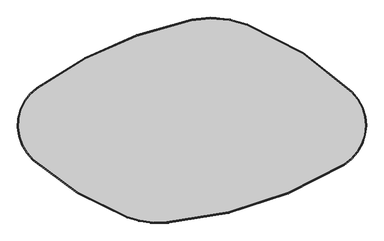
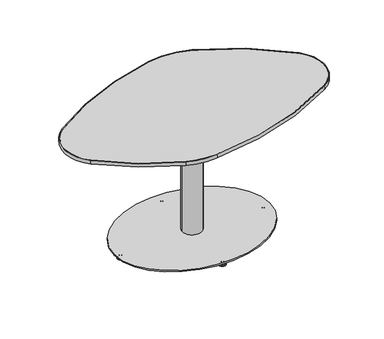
"""IFC4 building model written with IfcOpenShell, lengths in millimetres: furniture geometry, SmithSystem_AM_Table_Education_Flowform_LearnLounge_OffsetRectangle : NoPower."""

from ifc_helpers import new_model, si_unit, point, frame, frame_2d, origin, origin_2d, place, context, project, spatial, polyline, circle_curve, ellipse_curve, trimmed, segment, composite_curve, outline, extrude, faceted_brep, source, transform, mapped, element, save
from ifc_brep_helpers import plane_surface, cylinder_surface, revolved_surface, extruded_surface, advanced_brep


def furniture_9e63f0ef(model_context):
    return source(origin(), model_context, "Body", "SolidModel", [
        advanced_brep(
        [(-251.2749333, -377.9933385, 715.5915682), (-618.0474296, -153.7128124, 715.5915682), (-618.0474296, -153.7128124, 696.5415682), (-251.2749333, -377.9933385, 696.5415682), (-250.082583, -374.8479145, 696.5415682), (-615.7908773, -151.2181454, 696.5415682), (-615.7908773, -151.2181454, 715.5915682), (-250.082583, -374.8479145, 715.5915682), (-100.5668774, -399.344457, 715.5915682), (-100.5668774, -399.344457, 696.5415682), (-100.8386048, -395.991614, 696.5415682), (-100.8386048, -395.991614, 715.5915682), (591.5520529, -173.0158317, 715.5915682), (591.5520529, -173.0158317, 696.5415682), (589.7903005, -170.1502393, 696.5415682), (589.7903005, -170.1502393, 715.5915682), (623.1525274, 111.0165758, 715.5915682), (623.1525274, 111.0165758, 696.5415682), (620.8040198, 108.6082769, 696.5415682), (620.8040198, 108.6082769, 715.5915682), (215.0587168, 374.0069413, 715.5915682), (215.0587168, 374.0069413, 696.5415682), (213.8357856, 370.8732803, 696.5415682), (213.8357856, 370.8732803, 715.5915682), (-1.1588427, 392.3385395, 715.5915682), (-1.1588427, 392.3385395, 696.5415682), (-0.4809381, 389.0437197, 696.5415682), (-0.4809381, 389.0437197, 715.5915682), (-602.78312, 127.3650851, 715.5915682), (-602.78312, 127.3650851, 696.5415682), (-600.8099942, 124.6407198, 696.5415682), (-600.8099942, 124.6407198, 715.5915682)],
        [
            (0, 1, circle_curve(frame((159.6632656, 706.0630548, 715.5915682), z_axis=(0.0, 0.0, -1.0), x_axis=(-0.6708271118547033, -0.7416137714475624, 0.0)), 1159.3310429)),
            (1, 2, circle_curve(frame((-600.0913737, -133.8620071, 706.0665682), z_axis=(0.7416137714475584, -0.6708271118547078, 0.0), x_axis=(0.6708271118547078, 0.7416137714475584, 0.0)), 28.4112661)),
            (2, 3, circle_curve(frame((159.6632656, 706.0630548, 696.5415682), z_axis=(0.0, 0.0, 1.0), x_axis=(-0.6708271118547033, -0.7416137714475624, 0.0)), 1159.3310429)),
            (3, 0, circle_curve(frame((-241.7870487, -352.9642662, 706.0665682), z_axis=(-0.9350706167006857, 0.3544614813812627, 0.0), x_axis=(0.3544614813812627, 0.9350706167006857, 0.0)), 28.4112661)),
            (4, 5, circle_curve(frame((159.6632656, 706.0630548, 696.5415682), z_axis=(0.0, 0.0, -1.0), x_axis=(-0.6708271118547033, -0.7416137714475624, 0.0)), 1155.9672071)),
            (5, 6),
            (6, 7, circle_curve(frame((159.6632656, 706.0630548, 715.5915682), z_axis=(0.0, 0.0, 1.0), x_axis=(-0.6708271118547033, -0.7416137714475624, 0.0)), 1155.9672071)),
            (7, 4),
            (8, 0, circle_curve(frame((-128.5377411, -54.2122, 715.5915682), z_axis=(0.0, 0.0, -1.0), x_axis=(-0.354461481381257, -0.9350706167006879, 0.0)), 346.2638358)),
            (3, 9, circle_curve(frame((-128.5377411, -54.2122, 696.5415682), z_axis=(0.0, 0.0, 1.0), x_axis=(-0.354461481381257, -0.9350706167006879, 0.0)), 346.2638358)),
            (9, 8, circle_curve(frame((-102.7290934, -372.6648911, 706.0665682), z_axis=(-0.9967320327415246, -0.08077904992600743, 0.0), x_axis=(-0.08077904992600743, 0.9967320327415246, 0.0)), 28.4112661)),
            (10, 4, circle_curve(frame((-128.5377411, -54.2122, 696.5415682), z_axis=(0.0, 0.0, -1.0), x_axis=(-0.354461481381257, -0.9350706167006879, 0.0)), 342.9)),
            (7, 11, circle_curve(frame((-128.5377411, -54.2122, 715.5915682), z_axis=(0.0, 0.0, 1.0), x_axis=(-0.354461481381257, -0.9350706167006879, 0.0)), 342.9)),
            (11, 10),
            (12, 8, circle_curve(frame((-226.7847098, 1158.0563398, 715.5915682), z_axis=(0.0, 0.0, -1.0), x_axis=(0.08077904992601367, -0.9967320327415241, 0.0)), 1562.5070186)),
            (9, 13, circle_curve(frame((-226.7847098, 1158.0563398, 696.5415682), z_axis=(0.0, 0.0, 1.0), x_axis=(0.08077904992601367, -0.9967320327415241, 0.0)), 1562.5070186)),
            (13, 12, circle_curve(frame((577.5332662, -150.2134627, 706.0665682), z_axis=(-0.8518823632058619, -0.5237331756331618, 0.0), x_axis=(-0.5237331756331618, 0.8518823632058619, 0.0)), 28.4112661)),
            (14, 10, circle_curve(frame((-226.7847098, 1158.0563398, 696.5415682), z_axis=(0.0, 0.0, -1.0), x_axis=(0.08077904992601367, -0.9967320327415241, 0.0)), 1559.1431827)),
            (11, 15, circle_curve(frame((-226.7847098, 1158.0563398, 715.5915682), z_axis=(0.0, 0.0, 1.0), x_axis=(0.08077904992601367, -0.9967320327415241, 0.0)), 1559.1431827)),
            (15, 14),
            (16, 12, circle_curve(frame((496.6705419, -18.6855551, 715.5915682), z_axis=(0.0, 0.0, -1.0), x_axis=(0.5237331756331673, -0.8518823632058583, 0.0)), 181.1638358)),
            (13, 17, circle_curve(frame((496.6705419, -18.6855551, 696.5415682), z_axis=(0.0, 0.0, 1.0), x_axis=(0.5237331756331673, -0.8518823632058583, 0.0)), 181.1638358)),
            (17, 16, circle_curve(frame((604.4647561, 91.8530266, 706.0665682), z_axis=(0.7159383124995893, -0.6981635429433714, 0.0), x_axis=(-0.6981635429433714, -0.7159383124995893, 0.0)), 28.4112661)),
            (18, 14, circle_curve(frame((496.6705419, -18.6855551, 696.5415682), z_axis=(0.0, 0.0, -1.0), x_axis=(0.5237331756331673, -0.8518823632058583, 0.0)), 177.8)),
            (15, 19, circle_curve(frame((496.6705419, -18.6855551, 715.5915682), z_axis=(0.0, 0.0, 1.0), x_axis=(0.5237331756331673, -0.8518823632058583, 0.0)), 177.8)),
            (19, 18),
            (20, 16, circle_curve(frame((-228.3325005, -762.1466824, 715.5915682), z_axis=(0.0, 0.0, -1.0), x_axis=(0.698163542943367, 0.7159383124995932, 0.0)), 1219.6068335)),
            (17, 21, circle_curve(frame((-228.3325005, -762.1466824, 696.5415682), z_axis=(0.0, 0.0, 1.0), x_axis=(0.698163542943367, 0.7159383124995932, 0.0)), 1219.6068335)),
            (21, 20, circle_curve(frame((205.3274903, 349.0714717, 706.0665682), z_axis=(0.9315736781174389, -0.36355258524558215, 0.0), x_axis=(-0.36355258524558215, -0.9315736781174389, 0.0)), 28.4112661)),
            (22, 18, circle_curve(frame((-228.3325005, -762.1466824, 696.5415682), z_axis=(0.0, 0.0, -1.0), x_axis=(0.698163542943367, 0.7159383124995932, 0.0)), 1216.2429976)),
            (19, 23, circle_curve(frame((-228.3325005, -762.1466824, 715.5915682), z_axis=(0.0, 0.0, 1.0), x_axis=(0.698163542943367, 0.7159383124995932, 0.0)), 1216.2429976)),
            (23, 22),
            (24, 20, circle_curve(frame((75.9519091, 17.5571571, 715.5915682), z_axis=(0.0, 0.0, -1.0), x_axis=(0.3635525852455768, 0.9315736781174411, 0.0)), 382.6318761)),
            (21, 25, circle_curve(frame((75.9519091, 17.5571571, 696.5415682), z_axis=(0.0, 0.0, 1.0), x_axis=(0.3635525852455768, 0.9315736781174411, 0.0)), 382.6318761)),
            (25, 24, circle_curve(frame((4.2354453, 366.1206816, 706.0665682), z_axis=(0.9794829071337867, 0.20152725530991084, 0.0), x_axis=(0.20152725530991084, -0.9794829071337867, 0.0)), 28.4112661)),
            (26, 22, circle_curve(frame((75.9519091, 17.5571571, 696.5415682), z_axis=(0.0, 0.0, -1.0), x_axis=(0.3635525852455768, 0.9315736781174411, 0.0)), 379.2680402)),
            (23, 27, circle_curve(frame((75.9519091, 17.5571571, 715.5915682), z_axis=(0.0, 0.0, 1.0), x_axis=(0.3635525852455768, 0.9315736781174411, 0.0)), 379.2680402)),
            (27, 26),
            (28, 24, circle_curve(frame((313.7247266, -1138.0900539, 715.5915682), z_axis=(0.0, 0.0, -1.0), x_axis=(-0.2015272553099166, 0.9794829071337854, 0.0)), 1562.4862692)),
            (25, 29, circle_curve(frame((313.7247266, -1138.0900539, 696.5415682), z_axis=(0.0, 0.0, 1.0), x_axis=(-0.2015272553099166, 0.9794829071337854, 0.0)), 1562.4862692)),
            (29, 28, circle_curve(frame((-587.0823728, 105.6865023, 706.0665682), z_axis=(0.8098984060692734, 0.5865701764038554, 0.0), x_axis=(0.5865701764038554, -0.8098984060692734, 0.0)), 28.4112661)),
            (30, 26, circle_curve(frame((313.7247266, -1138.0900539, 696.5415682), z_axis=(0.0, 0.0, -1.0), x_axis=(-0.2015272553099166, 0.9794829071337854, 0.0)), 1559.1224334)),
            (27, 31, circle_curve(frame((313.7247266, -1138.0900539, 715.5915682), z_axis=(0.0, 0.0, 1.0), x_axis=(-0.2015272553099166, 0.9794829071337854, 0.0)), 1559.1224334)),
            (31, 30),
            (2, 29, circle_curve(frame((-496.5178168, -19.3592168, 696.5415682), z_axis=(0.0, 0.0, -1.0), x_axis=(-0.5865701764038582, 0.8098984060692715, 0.0)), 181.1638358)),
            (30, 5, circle_curve(frame((-496.5178168, -19.3592168, 696.5415682), z_axis=(0.0, 0.0, 1.0), x_axis=(-0.5865701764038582, 0.8098984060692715, 0.0)), 177.8)),
            (1, 28, circle_curve(frame((-496.5178168, -19.3592168, 715.5915682), z_axis=(0.0, 0.0, -1.0), x_axis=(-0.5865701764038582, 0.8098984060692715, 0.0)), 181.1638358)),
            (6, 31, circle_curve(frame((-496.5178168, -19.3592168, 715.5915682), z_axis=(0.0, 0.0, -1.0), x_axis=(-0.5865701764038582, 0.8098984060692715, 0.0)), 177.8)),
        ],
        [
            revolved_surface(trimmed(ellipse_curve(frame((-600.0913737, -133.8620071, 706.0665682), z_axis=(-0.7416137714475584, 0.6708271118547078, 0.0), x_axis=(0.6708271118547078, 0.7416137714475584, 0.0)), 28.4112661, 28.4112661), [point((-618.0474296, -153.7128124, 696.5415682))], [point((-618.0474296, -153.7128124, 715.5915682))], True, "CARTESIAN"), (159.6632656, 706.0630548, 0.0), (0.0, 0.0, 1.0)),
            revolved_surface(polyline([(-615.7908773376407, -151.2181453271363, 715.5915682), (-615.7908773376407, -151.2181453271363, 696.5415682)]), (159.6632656, 706.0630548, 0.0), (0.0, 0.0, 1.0)),
            revolved_surface(trimmed(ellipse_curve(frame((-241.7870487, -352.9642662, 706.0665682), z_axis=(-0.9350706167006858, 0.35446148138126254, 0.0), x_axis=(0.35446148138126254, 0.9350706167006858, 0.0)), 28.4112661, 28.4112661), [point((-251.2749333, -377.9933385, 696.5415682))], [point((-251.2749333, -377.9933385, 715.5915682))], True, "CARTESIAN"), (-128.5377411, -54.2122, 0.0), (0.0, 0.0, 1.0)),
            revolved_surface(polyline([(-250.082583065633, -374.8479144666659, 715.5915682), (-250.082583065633, -374.8479144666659, 696.5415682)]), (-128.5377411, -54.2122, 0.0), (0.0, 0.0, 1.0)),
            revolved_surface(trimmed(ellipse_curve(frame((-102.7290934, -372.6648911, 706.0665682), z_axis=(-0.9967320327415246, -0.08077904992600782, 0.0), x_axis=(-0.08077904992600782, 0.9967320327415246, 0.0)), 28.4112661, 28.4112661), [point((-100.5668774, -399.344457, 696.5415682))], [point((-100.5668774, -399.344457, 715.5915682))], True, "CARTESIAN"), (-226.7847098, 1158.0563398, 0.0), (0.0, 0.0, 1.0)),
            revolved_surface(polyline([(-100.83860480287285, -395.9916140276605, 715.5915682), (-100.83860480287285, -395.9916140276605, 696.5415682)]), (-226.7847098, 1158.0563398, 0.0), (0.0, 0.0, 1.0)),
            revolved_surface(trimmed(ellipse_curve(frame((577.5332662, -150.2134627, 706.0665682), z_axis=(-0.8518823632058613, -0.5237331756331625, 0.0), x_axis=(-0.5237331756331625, 0.8518823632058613, 0.0)), 28.4112661, 28.4112661), [point((591.5520529, -173.0158317, 696.5415682))], [point((591.5520529, -173.0158317, 715.5915682))], True, "CARTESIAN"), (496.6705419, -18.6855551, 0.0), (0.0, 0.0, 1.0)),
            revolved_surface(polyline([(589.7903005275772, -170.1502392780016, 715.5915682), (589.7903005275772, -170.1502392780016, 696.5415682)]), (496.6705419, -18.6855551, 0.0), (0.0, 0.0, 1.0)),
            revolved_surface(trimmed(ellipse_curve(frame((604.4647561, 91.8530266, 706.0665682), z_axis=(0.7159383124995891, -0.6981635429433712, 0.0), x_axis=(-0.6981635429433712, -0.7159383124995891, 0.0)), 28.4112661, 28.4112661), [point((623.1525274, 111.0165758, 696.5415682))], [point((623.1525274, 111.0165758, 715.5915682))], True, "CARTESIAN"), (-228.3325005, -762.1466824, 0.0), (0.0, 0.0, 1.0)),
            revolved_surface(polyline([(620.8040197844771, 108.60827689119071, 715.5915682), (620.8040197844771, 108.60827689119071, 696.5415682)]), (-228.3325005, -762.1466824, 0.0), (0.0, 0.0, 1.0)),
            revolved_surface(trimmed(ellipse_curve(frame((205.3274903, 349.0714717, 706.0665682), z_axis=(0.931573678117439, -0.3635525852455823, 0.0), x_axis=(-0.3635525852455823, -0.931573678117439, 0.0)), 28.4112661, 28.4112661), [point((215.0587168, 374.0069413, 696.5415682))], [point((215.0587168, 374.0069413, 715.5915682))], True, "CARTESIAN"), (75.9519091, 17.5571571, 0.0), (0.0, 0.0, 1.0)),
            revolved_surface(polyline([(213.83578561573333, 370.87328030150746, 715.5915682), (213.83578561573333, 370.87328030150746, 696.5415682)]), (75.9519091, 17.5571571, 0.0), (0.0, 0.0, 1.0)),
            revolved_surface(trimmed(ellipse_curve(frame((4.2354453, 366.1206816, 706.0665682), z_axis=(0.9794829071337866, 0.2015272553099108, 0.0), x_axis=(0.2015272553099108, -0.9794829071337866, 0.0)), 28.4112661, 28.4112661), [point((-1.1588427, 392.3385395, 696.5415682))], [point((-1.1588427, 392.3385395, 715.5915682))], True, "CARTESIAN"), (313.7247266, -1138.0900539, 0.0), (0.0, 0.0, 1.0)),
            revolved_surface(polyline([(-0.4809380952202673, 389.0437197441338, 715.5915682), (-0.4809380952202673, 389.0437197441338, 696.5415682)]), (313.7247266, -1138.0900539, 0.0), (0.0, 0.0, 1.0)),
            plane_surface(frame((-496.5178168, -19.3592168, 696.5415682), z_axis=(0.0, 0.0, -1.0), x_axis=(-0.5865701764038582, 0.8098984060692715, 0.0))),
            revolved_surface(trimmed(ellipse_curve(frame((-587.0823728, 105.6865023, 706.0665682), z_axis=(0.809898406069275, 0.5865701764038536, 0.0), x_axis=(0.5865701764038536, -0.809898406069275, 0.0)), 28.4112661, 28.4112661), [point((-602.78312, 127.3650851, 696.5415682))], [point((-602.78312, 127.3650851, 715.5915682))], True, "CARTESIAN"), (-496.5178168, -19.3592168, 0.0), (0.0, 0.0, 1.0)),
            plane_surface(frame((-496.5178168, -19.3592168, 715.5915682), z_axis=(0.0, 0.0, 1.0), x_axis=(-0.5865701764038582, 0.8098984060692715, 0.0))),
            revolved_surface(polyline([(-600.809994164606, 124.6407197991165, 715.5915682), (-600.809994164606, 124.6407197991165, 696.5415682)]), (-496.5178168, -19.3592168, 0.0), (0.0, 0.0, 1.0)),
        ],
        [
            (0, [[1, 2, 3, 4]]),
            (1, [[5, 6, 7, 8]]),
            (2, [[9, -4, 10, 11]]),
            (3, [[12, -8, 13, 14]]),
            (4, [[15, -11, 16, 17]]),
            (5, [[18, -14, 19, 20]]),
            (6, [[21, -17, 22, 23]]),
            (7, [[24, -20, 25, 26]]),
            (8, [[27, -23, 28, 29]]),
            (9, [[30, -26, 31, 32]]),
            (10, [[33, -29, 34, 35]]),
            (11, [[36, -32, 37, 38]]),
            (12, [[39, -35, 40, 41]]),
            (13, [[42, -38, 43, 44]]),
            (14, [[45, -40, -34, -28, -22, -16, -10, -3], [-36, -42, 46, -5, -12, -18, -24, -30]]),
            (15, [[47, -41, -45, -2]]),
            (16, [[-33, -39, -47, -1, -9, -15, -21, -27], [48, -43, -37, -31, -25, -19, -13, -7]]),
            (17, [[-46, -44, -48, -6]]),
        ],
    ),
        extrude(outline(composite_curve([segment(trimmed(circle_curve(frame_2d((75.9519091, 17.5571571)), 379.2680402), [point((-0.4809381, 389.0437197))], [point((213.8357856, 370.8732803))], False, "CARTESIAN"), True, "CONTINUOUS"), segment(trimmed(circle_curve(frame_2d((-228.3325005, -762.1466824)), 1216.2429976), [point((213.8357856, 370.8732803))], [point((620.8040198, 108.6082769))], False, "CARTESIAN"), True, "CONTINUOUS"), segment(trimmed(circle_curve(frame_2d((496.6705419, -18.6855551)), 177.8), [point((620.8040198, 108.6082769))], [point((589.7903005, -170.1502393))], False, "CARTESIAN"), True, "CONTINUOUS"), segment(trimmed(circle_curve(frame_2d((-226.7847098, 1158.0563398)), 1559.1431827), [point((589.7903005, -170.1502393))], [point((-100.8386048, -395.991614))], False, "CARTESIAN"), True, "CONTINUOUS"), segment(trimmed(circle_curve(frame_2d((-128.5377411, -54.2122)), 342.9), [point((-100.8386048, -395.991614))], [point((-250.082583, -374.8479145))], False, "CARTESIAN"), True, "CONTINUOUS"), segment(trimmed(circle_curve(frame_2d((159.6632656, 706.0630548)), 1155.9672071), [point((-250.082583, -374.8479145))], [point((-615.7908773, -151.2181454))], False, "CARTESIAN"), True, "CONTINUOUS"), segment(trimmed(circle_curve(frame_2d((-496.5178168, -19.3592168)), 177.8), [point((-615.7908773, -151.2181454))], [point((-600.8099942, 124.6407198))], False, "CARTESIAN"), True, "CONTINUOUS"), segment(trimmed(circle_curve(frame_2d((313.7247266, -1138.0900539)), 1559.1224334), [point((-600.8099942, 124.6407198))], [point((-0.4809381, 389.0437197))], False, "CARTESIAN"), True, "CONTINUOUS")], self_intersect=False)), frame((0.0, 0.0, 696.5415682), z_axis=(0.0, 0.0, 1.0), x_axis=(1.0, 0.0, 0.0)), (0.0, 0.0, 1.0), 19.05),
        faceted_brep([(84.6581956, 84.4295951, 688.0173792), (-84.198458, 84.4295951, 688.0173792), (-84.198458, -84.427063, 688.0173792), (84.6581956, -84.427063, 688.0173792), (66.4864882, 66.33972, 665.6324083), (66.4864882, -66.3371788, 665.6324083), (-66.1085784, -66.3371788, 665.6324083), (-66.1085784, 66.33972, 665.6324083)], [[[0, 1, 2, 3]], [[4, 5, 6, 7]], [[4, 7, 1, 0]], [[7, 6, 2, 1]], [[6, 5, 3, 2]], [[5, 4, 0, 3]]]),
        extrude(outline(polyline([(117.706142, 117.4775461), (117.706142, -117.4750004), (-117.243861, -117.4750004), (-117.243861, 117.4775461), (117.706142, 117.4775461)])), frame((0.0, 0.0, 688.0173792), z_axis=(0.0, 0.0, 1.0), x_axis=(1.0, 0.0, 0.0)), (0.0, 0.0, 1.0), 3.0226353),
        extrude(outline(composite_curve([segment(trimmed(circle_curve(origin_2d(), 51.0307352), [point((-51.0307352, 0.0))], [point((51.0307352, 0.0))], False, "CARTESIAN"), True, "CONTINUOUS"), segment(trimmed(circle_curve(origin_2d(), 51.0307352), [point((51.0307352, 0.0))], [point((-51.0307352, 0.0))], False, "CARTESIAN"), True, "CONTINUOUS")], self_intersect=False), holes=[composite_curve([segment(trimmed(circle_curve(origin_2d(), 49.8623383), [point((-49.8623383, 0.0))], [point((49.8623383, 0.0))], True, "CARTESIAN"), True, "CONTINUOUS"), segment(trimmed(circle_curve(origin_2d(), 49.8623383), [point((49.8623383, 0.0))], [point((-49.8623383, 0.0))], True, "CARTESIAN"), True, "CONTINUOUS")], self_intersect=False)]), frame((0.0, 0.0, 30.4800005), z_axis=(0.0, 0.0, 1.0), x_axis=(1.0, 0.0, 0.0)), (0.0, 0.0, 1.0), 635.1524079),
        extrude(outline(composite_curve([segment(trimmed(circle_curve(frame_2d((381.2286319, 49.6219644)), 25.4), [point((390.780639, 73.1574517))], [point((406.6286319, 49.6219644))], False, "CARTESIAN"), True, "CONTINUOUS"), segment(polyline([(406.6286319, 49.6219644), (406.6286319, -49.6194278)]), True, "CONTINUOUS"), segment(trimmed(circle_curve(frame_2d((381.2286319, -49.6194278)), 25.4), [point((406.6286319, -49.6194278))], [point((390.7806401, -73.1549146))], False, "CARTESIAN"), True, "CONTINUOUS"), segment(trimmed(circle_curve(frame_2d((0.2298915, 889.135086)), 1038.52392), [point((390.7806401, -73.1549146))], [point((-393.4994358, -71.8587481))], False, "CARTESIAN"), True, "CONTINUOUS"), segment(trimmed(circle_curve(frame_2d((-381.2286319, -49.6194278)), 25.4), [point((-393.4994358, -71.8587481))], [point((-406.6286319, -49.6194278))], False, "CARTESIAN"), True, "CONTINUOUS"), segment(polyline([(-406.6286319, -49.6194278), (-406.6286319, 49.6219644)]), True, "CONTINUOUS"), segment(trimmed(circle_curve(frame_2d((-381.2286319, 49.6219644)), 25.4), [point((-406.6286319, 49.6219644))], [point((-387.948128, 74.1170327))], False, "CARTESIAN"), True, "CONTINUOUS"), segment(trimmed(circle_curve(frame_2d((0.2298915, -889.1326731)), 1038.5240346), [point((-387.948128, 74.1170327))], [point((390.780639, 73.1574517))], False, "CARTESIAN"), True, "CONTINUOUS")], self_intersect=False), holes=[composite_curve([segment(trimmed(circle_curve(frame_2d((-386.0367929, 53.1685479)), 6.1861697), [point((-392.2229625, 53.1685479))], [point((-379.8506232, 53.1685479))], True, "CARTESIAN"), True, "CONTINUOUS"), segment(trimmed(circle_curve(frame_2d((-386.0367929, 53.1685479)), 6.1861697), [point((-379.8506232, 53.1685479))], [point((-392.2229625, 53.1685479))], True, "CARTESIAN"), True, "CONTINUOUS")], self_intersect=False), composite_curve([segment(trimmed(circle_curve(frame_2d((-292.9890022, 87.2680426)), 6.1861697), [point((-299.1751719, 87.2680426))], [point((-286.8028325, 87.2680426))], True, "CARTESIAN"), True, "CONTINUOUS"), segment(trimmed(circle_curve(frame_2d((-292.9890022, 87.2680426)), 6.1861697), [point((-286.8028325, 87.2680426))], [point((-299.1751719, 87.2680426))], True, "CARTESIAN"), True, "CONTINUOUS")], self_intersect=False), composite_curve([segment(trimmed(circle_curve(frame_2d((-196.8017411, 111.1262702)), 6.1861697), [point((-202.9879108, 111.1262702))], [point((-190.6155714, 111.1262702))], True, "CARTESIAN"), True, "CONTINUOUS"), segment(trimmed(circle_curve(frame_2d((-196.8017411, 111.1262702)), 6.1861697), [point((-190.6155714, 111.1262702))], [point((-202.9879108, 111.1262702))], True, "CARTESIAN"), True, "CONTINUOUS")], self_intersect=False), composite_curve([segment(trimmed(circle_curve(frame_2d((-98.7526568, 125.5331488)), 6.1861697), [point((-104.9388265, 125.5331488))], [point((-92.5664872, 125.5331488))], True, "CARTESIAN"), True, "CONTINUOUS"), segment(trimmed(circle_curve(frame_2d((-98.7526568, 125.5331488)), 6.1861697), [point((-92.5664872, 125.5331488))], [point((-104.9388265, 125.5331488))], True, "CARTESIAN"), True, "CONTINUOUS")], self_intersect=False), composite_curve([segment(trimmed(circle_curve(frame_2d((0.0, 130.2772487)), 6.1861697), [point((-6.1861697, 130.2772487))], [point((6.1861697, 130.2772487))], True, "CARTESIAN"), True, "CONTINUOUS"), segment(trimmed(circle_curve(frame_2d((0.0, 130.2772487)), 6.1861697), [point((6.1861697, 130.2772487))], [point((-6.1861697, 130.2772487))], True, "CARTESIAN"), True, "CONTINUOUS")], self_intersect=False), composite_curve([segment(trimmed(circle_curve(frame_2d((386.0367929, 53.1685479)), 6.1861697), [point((379.8506232, 53.1685479))], [point((392.2229625, 53.1685479))], True, "CARTESIAN"), True, "CONTINUOUS"), segment(trimmed(circle_curve(frame_2d((386.0367929, 53.1685479)), 6.1861697), [point((392.2229625, 53.1685479))], [point((379.8506232, 53.1685479))], True, "CARTESIAN"), True, "CONTINUOUS")], self_intersect=False), composite_curve([segment(trimmed(circle_curve(frame_2d((292.9890022, 87.2680426)), 6.1861697), [point((286.8028325, 87.2680426))], [point((299.1751719, 87.2680426))], True, "CARTESIAN"), True, "CONTINUOUS"), segment(trimmed(circle_curve(frame_2d((292.9890022, 87.2680426)), 6.1861697), [point((299.1751719, 87.2680426))], [point((286.8028325, 87.2680426))], True, "CARTESIAN"), True, "CONTINUOUS")], self_intersect=False), composite_curve([segment(trimmed(circle_curve(frame_2d((196.8017411, 111.1262702)), 6.1861697), [point((190.6155714, 111.1262702))], [point((202.9879108, 111.1262702))], True, "CARTESIAN"), True, "CONTINUOUS"), segment(trimmed(circle_curve(frame_2d((196.8017411, 111.1262702)), 6.1861697), [point((202.9879108, 111.1262702))], [point((190.6155714, 111.1262702))], True, "CARTESIAN"), True, "CONTINUOUS")], self_intersect=False), composite_curve([segment(trimmed(circle_curve(frame_2d((98.7526568, 125.5331488)), 6.1861697), [point((92.5664872, 125.5331488))], [point((104.9388265, 125.5331488))], True, "CARTESIAN"), True, "CONTINUOUS"), segment(trimmed(circle_curve(frame_2d((98.7526568, 125.5331488)), 6.1861697), [point((104.9388265, 125.5331488))], [point((92.5664872, 125.5331488))], True, "CARTESIAN"), True, "CONTINUOUS")], self_intersect=False), composite_curve([segment(trimmed(circle_curve(frame_2d((-386.0367929, -53.1685479)), 6.1861697), [point((-392.2229625, -53.1685479))], [point((-379.8506232, -53.1685479))], True, "CARTESIAN"), True, "CONTINUOUS"), segment(trimmed(circle_curve(frame_2d((-386.0367929, -53.1685479)), 6.1861697), [point((-379.8506232, -53.1685479))], [point((-392.2229625, -53.1685479))], True, "CARTESIAN"), True, "CONTINUOUS")], self_intersect=False), composite_curve([segment(trimmed(circle_curve(frame_2d((-292.9890022, -87.2680426)), 6.1861697), [point((-299.1751719, -87.2680426))], [point((-286.8028325, -87.2680426))], True, "CARTESIAN"), True, "CONTINUOUS"), segment(trimmed(circle_curve(frame_2d((-292.9890022, -87.2680426)), 6.1861697), [point((-286.8028325, -87.2680426))], [point((-299.1751719, -87.2680426))], True, "CARTESIAN"), True, "CONTINUOUS")], self_intersect=False), composite_curve([segment(trimmed(circle_curve(frame_2d((-196.8017411, -111.1262702)), 6.1861697), [point((-202.9879108, -111.1262702))], [point((-190.6155714, -111.1262702))], True, "CARTESIAN"), True, "CONTINUOUS"), segment(trimmed(circle_curve(frame_2d((-196.8017411, -111.1262702)), 6.1861697), [point((-190.6155714, -111.1262702))], [point((-202.9879108, -111.1262702))], True, "CARTESIAN"), True, "CONTINUOUS")], self_intersect=False), composite_curve([segment(trimmed(circle_curve(frame_2d((-98.7526568, -125.5331488)), 6.1861697), [point((-104.9388265, -125.5331488))], [point((-92.5664872, -125.5331488))], True, "CARTESIAN"), True, "CONTINUOUS"), segment(trimmed(circle_curve(frame_2d((-98.7526568, -125.5331488)), 6.1861697), [point((-92.5664872, -125.5331488))], [point((-104.9388265, -125.5331488))], True, "CARTESIAN"), True, "CONTINUOUS")], self_intersect=False), composite_curve([segment(trimmed(circle_curve(frame_2d((0.0, -130.2772487)), 6.1861697), [point((-6.1861697, -130.2772487))], [point((6.1861697, -130.2772487))], True, "CARTESIAN"), True, "CONTINUOUS"), segment(trimmed(circle_curve(frame_2d((0.0, -130.2772487)), 6.1861697), [point((6.1861697, -130.2772487))], [point((-6.1861697, -130.2772487))], True, "CARTESIAN"), True, "CONTINUOUS")], self_intersect=False), composite_curve([segment(trimmed(circle_curve(frame_2d((386.0367929, -53.1685479)), 6.1861697), [point((379.8506232, -53.1685479))], [point((392.2229625, -53.1685479))], True, "CARTESIAN"), True, "CONTINUOUS"), segment(trimmed(circle_curve(frame_2d((386.0367929, -53.1685479)), 6.1861697), [point((392.2229625, -53.1685479))], [point((379.8506232, -53.1685479))], True, "CARTESIAN"), True, "CONTINUOUS")], self_intersect=False), composite_curve([segment(trimmed(circle_curve(frame_2d((292.9890022, -87.2680426)), 6.1861697), [point((286.8028325, -87.2680426))], [point((299.1751719, -87.2680426))], True, "CARTESIAN"), True, "CONTINUOUS"), segment(trimmed(circle_curve(frame_2d((292.9890022, -87.2680426)), 6.1861697), [point((299.1751719, -87.2680426))], [point((286.8028325, -87.2680426))], True, "CARTESIAN"), True, "CONTINUOUS")], self_intersect=False), composite_curve([segment(trimmed(circle_curve(frame_2d((196.8017411, -111.1262702)), 6.1861697), [point((190.6155714, -111.1262702))], [point((202.9879108, -111.1262702))], True, "CARTESIAN"), True, "CONTINUOUS"), segment(trimmed(circle_curve(frame_2d((196.8017411, -111.1262702)), 6.1861697), [point((202.9879108, -111.1262702))], [point((190.6155714, -111.1262702))], True, "CARTESIAN"), True, "CONTINUOUS")], self_intersect=False), composite_curve([segment(trimmed(circle_curve(frame_2d((98.7526568, -125.5331488)), 6.1861697), [point((92.5664872, -125.5331488))], [point((104.9388265, -125.5331488))], True, "CARTESIAN"), True, "CONTINUOUS"), segment(trimmed(circle_curve(frame_2d((98.7526568, -125.5331488)), 6.1861697), [point((104.9388265, -125.5331488))], [point((92.5664872, -125.5331488))], True, "CARTESIAN"), True, "CONTINUOUS")], self_intersect=False)]), frame((0.0, 0.0, 691.0400145), z_axis=(0.0, 0.0, 1.0), x_axis=(1.0, 0.0, 0.0)), (0.0, 0.0, 1.0), 5.5015537),
        advanced_brep(
        [(0.0, 274.7331576, 0.0), (17.7495343, 274.7331576, 0.0), (-17.7495343, 274.7331576, 0.0), (17.7495343, 274.7331576, 3.570799), (-17.7495343, 274.7331576, 3.570799), (16.567463, 274.7331576, 5.0466319), (-16.567463, 274.7331576, 5.0466319), (7.9298575, 274.7331576, 10.1285507), (-7.9298575, 274.7331576, 10.1285507), (7.9298575, 274.7331576, 12.7000004), (-7.9298575, 274.7331576, 12.7000004), (5.3644618, 274.7331576, 12.7000004), (-5.3644618, 274.7331576, 12.7000004), (5.3644618, 274.7331576, 17.8079394), (-5.3644618, 274.7331576, 17.8079394), (0.0, 274.7331576, 17.8079394)],
        [
            (0, 1),
            (1, 2, circle_curve(frame((0.0, 274.7331576, 0.0), z_axis=(0.0, 0.0, -1.0), x_axis=(1.0, 0.0, 0.0)), 17.7495343)),
            (2, 0),
            (2, 1, circle_curve(frame((0.0, 274.7331576, 0.0), z_axis=(0.0, 0.0, -1.0), x_axis=(1.0, 0.0, 0.0)), 17.7495343)),
            (1, 3),
            (3, 4, circle_curve(frame((0.0, 274.7331576, 3.570799), z_axis=(0.0, 0.0, -1.0), x_axis=(1.0, 0.0, 0.0)), 17.7495343)),
            (4, 2),
            (4, 3, circle_curve(frame((0.0, 274.7331576, 3.570799), z_axis=(0.0, 0.0, -1.0), x_axis=(1.0, 0.0, 0.0)), 17.7495343)),
            (3, 5, circle_curve(frame((16.2371994, 274.7331576, 3.570799), z_axis=(0.0, -1.0, 0.0), x_axis=(1.0, 0.0, 0.0)), 1.5123349)),
            (5, 6, circle_curve(frame((0.0, 274.7331576, 5.0466319), z_axis=(0.0, 0.0, -1.0), x_axis=(1.0, 0.0, 0.0)), 16.567463)),
            (6, 4, circle_curve(frame((-16.2371994, 274.7331576, 3.570799), z_axis=(0.0, -1.0, 0.0), x_axis=(-1.0, 0.0, 0.0)), 1.5123349)),
            (6, 5, circle_curve(frame((0.0, 274.7331576, 5.0466319), z_axis=(0.0, 0.0, -1.0), x_axis=(1.0, 0.0, 0.0)), 16.567463)),
            (5, 7, circle_curve(frame((20.1361155, 274.7331576, 20.9936944), z_axis=(0.0, 1.0, 0.0), x_axis=(1.0, 0.0, 0.0)), 16.3414834)),
            (7, 8, circle_curve(frame((0.0, 274.7331576, 10.1285507), z_axis=(0.0, 0.0, -1.0), x_axis=(1.0, 0.0, 0.0)), 7.9298575)),
            (8, 6, circle_curve(frame((-20.1361155, 274.7331576, 20.9936944), z_axis=(0.0, 1.0, 0.0), x_axis=(-1.0, 0.0, 0.0)), 16.3414834)),
            (8, 7, circle_curve(frame((0.0, 274.7331576, 10.1285507), z_axis=(0.0, 0.0, -1.0), x_axis=(1.0, 0.0, 0.0)), 7.9298575)),
            (7, 9, circle_curve(frame((7.33499, 274.7331576, 11.4142755), z_axis=(0.0, -1.0, 0.0), x_axis=(1.0, 0.0, 0.0)), 1.4166707)),
            (9, 10, circle_curve(frame((0.0, 274.7331576, 12.7000004), z_axis=(0.0, 0.0, -1.0), x_axis=(1.0, 0.0, 0.0)), 7.9298575)),
            (10, 8, circle_curve(frame((-7.33499, 274.7331576, 11.4142755), z_axis=(0.0, -1.0, 0.0), x_axis=(-1.0, 0.0, 0.0)), 1.4166707)),
            (10, 9, circle_curve(frame((0.0, 274.7331576, 12.7000004), z_axis=(0.0, 0.0, -1.0), x_axis=(1.0, 0.0, 0.0)), 7.9298575)),
            (9, 11),
            (11, 12, circle_curve(frame((0.0, 274.7331576, 12.7000004), z_axis=(0.0, 0.0, -1.0), x_axis=(1.0, 0.0, 0.0)), 5.3644618)),
            (12, 10),
            (12, 11, circle_curve(frame((0.0, 274.7331576, 12.7000004), z_axis=(0.0, 0.0, -1.0), x_axis=(1.0, 0.0, 0.0)), 5.3644618)),
            (11, 13),
            (13, 14, circle_curve(frame((0.0, 274.7331576, 17.8079394), z_axis=(0.0, 0.0, -1.0), x_axis=(1.0, 0.0, 0.0)), 5.3644618)),
            (14, 12),
            (14, 13, circle_curve(frame((0.0, 274.7331576, 17.8079394), z_axis=(0.0, 0.0, -1.0), x_axis=(1.0, 0.0, 0.0)), 5.3644618)),
            (13, 15),
            (15, 14),
        ],
        [
            plane_surface(frame((0.0, 274.7331576, 0.0), z_axis=(0.0, 0.0, -1.0), x_axis=(1.0, 0.0, 0.0))),
            cylinder_surface(frame((0.0, 274.7331576, 24.1299997), z_axis=(0.0, 0.0, -1.0), x_axis=(1.0, 0.0, 0.0)), 17.7495343),
            revolved_surface(trimmed(ellipse_curve(frame((16.2371994, 274.7331576, 3.570799), z_axis=(0.0, 1.0, 0.0), x_axis=(1.0, 0.0, 0.0)), 1.5123349, 1.5123349), [point((16.567463, 274.7331576, 5.0466319))], [point((17.7495343, 274.7331576, 3.570799))], True, "CARTESIAN"), (0.0, 274.7331576, 24.1299997), (0.0, 0.0, -1.0)),
            revolved_surface(trimmed(ellipse_curve(frame((20.1361155, 274.7331576, 20.9936944), z_axis=(0.0, -1.0, 0.0), x_axis=(1.0, 0.0, 0.0)), 16.3414834, 16.3414834), [point((7.9298575, 274.7331576, 10.1285507))], [point((16.567463, 274.7331576, 5.0466319))], True, "CARTESIAN"), (0.0, 274.7331576, 24.1299997), (0.0, 0.0, -1.0)),
            revolved_surface(trimmed(ellipse_curve(frame((7.33499, 274.7331576, 11.4142755), z_axis=(0.0, 1.0, 0.0), x_axis=(1.0, 0.0, 0.0)), 1.4166707, 1.4166707), [point((7.9298575, 274.7331576, 12.7000004))], [point((7.9298575, 274.7331576, 10.1285507))], True, "CARTESIAN"), (0.0, 274.7331576, 24.1299997), (0.0, 0.0, -1.0)),
            plane_surface(frame((0.0, 274.7331576, 12.7000004), z_axis=(0.0, 0.0, 1.0), x_axis=(1.0, 0.0, 0.0))),
            cylinder_surface(frame((0.0, 274.7331576, 24.1299997), z_axis=(0.0, 0.0, -1.0), x_axis=(1.0, 0.0, 0.0)), 5.3644618),
            plane_surface(frame((0.0, 274.7331576, 17.8079394), z_axis=(0.0, 0.0, 1.0), x_axis=(1.0, 0.0, 0.0))),
        ],
        [
            (0, [[1, 2, 3]]),
            (0, [[-3, 4, -1]]),
            (1, [[-2, 5, 6, 7]]),
            (1, [[-4, -7, 8, -5]]),
            (2, [[-6, 9, 10, 11]]),
            (2, [[-8, -11, 12, -9]]),
            (3, [[-10, 13, 14, 15]]),
            (3, [[-12, -15, 16, -13]]),
            (4, [[-14, 17, 18, 19]]),
            (4, [[-16, -19, 20, -17]]),
            (5, [[-18, 21, 22, 23]]),
            (5, [[-20, -23, 24, -21]]),
            (6, [[-22, 25, 26, 27]]),
            (6, [[-24, -27, 28, -25]]),
            (7, [[-26, 29, 30]]),
            (7, [[-28, -30, -29]]),
        ],
    ),
        advanced_brep(
        [(-17.7495343, -274.7331576, 0.0), (17.7495343, -274.7331576, 0.0), (0.0, -274.7331576, 0.0), (-17.7495343, -274.7331576, 3.570799), (17.7495343, -274.7331576, 3.570799), (-16.567463, -274.7331576, 5.0466319), (16.567463, -274.7331576, 5.0466319), (-7.9298575, -274.7331576, 10.1285507), (7.9298575, -274.7331576, 10.1285507), (-7.9298575, -274.7331576, 12.7000004), (7.9298575, -274.7331576, 12.7000004), (-5.3644618, -274.7331576, 12.7000004), (5.3644618, -274.7331576, 12.7000004), (-5.3644618, -274.7331576, 17.8079394), (5.3644618, -274.7331576, 17.8079394), (0.0, -274.7331576, 17.8079394)],
        [
            (0, 1, circle_curve(frame((0.0, -274.7331576, 0.0), z_axis=(0.0, 0.0, -1.0), x_axis=(1.0, 0.0, 0.0)), 17.7495343)),
            (1, 2),
            (2, 0),
            (1, 0, circle_curve(frame((0.0, -274.7331576, 0.0), z_axis=(0.0, 0.0, -1.0), x_axis=(1.0, 0.0, 0.0)), 17.7495343)),
            (3, 4, circle_curve(frame((0.0, -274.7331576, 3.570799), z_axis=(0.0, 0.0, -1.0), x_axis=(1.0, 0.0, 0.0)), 17.7495343)),
            (4, 1),
            (0, 3),
            (4, 3, circle_curve(frame((0.0, -274.7331576, 3.570799), z_axis=(0.0, 0.0, -1.0), x_axis=(1.0, 0.0, 0.0)), 17.7495343)),
            (5, 6, circle_curve(frame((0.0, -274.7331576, 5.0466319), z_axis=(0.0, 0.0, -1.0), x_axis=(1.0, 0.0, 0.0)), 16.567463)),
            (6, 4, circle_curve(frame((16.2371994, -274.7331576, 3.570799), z_axis=(0.0, 1.0, 0.0), x_axis=(1.0, 0.0, 0.0)), 1.5123349)),
            (3, 5, circle_curve(frame((-16.2371994, -274.7331576, 3.570799), z_axis=(0.0, 1.0, 0.0), x_axis=(-1.0, 0.0, 0.0)), 1.5123349)),
            (6, 5, circle_curve(frame((0.0, -274.7331576, 5.0466319), z_axis=(0.0, 0.0, -1.0), x_axis=(1.0, 0.0, 0.0)), 16.567463)),
            (7, 8, circle_curve(frame((0.0, -274.7331576, 10.1285507), z_axis=(0.0, 0.0, -1.0), x_axis=(1.0, 0.0, 0.0)), 7.9298575)),
            (8, 6, circle_curve(frame((20.1361155, -274.7331576, 20.9936944), z_axis=(0.0, -1.0, 0.0), x_axis=(1.0, 0.0, 0.0)), 16.3414834)),
            (5, 7, circle_curve(frame((-20.1361155, -274.7331576, 20.9936944), z_axis=(0.0, -1.0, 0.0), x_axis=(-1.0, 0.0, 0.0)), 16.3414834)),
            (8, 7, circle_curve(frame((0.0, -274.7331576, 10.1285507), z_axis=(0.0, 0.0, -1.0), x_axis=(1.0, 0.0, 0.0)), 7.9298575)),
            (9, 10, circle_curve(frame((0.0, -274.7331576, 12.7000004), z_axis=(0.0, 0.0, -1.0), x_axis=(1.0, 0.0, 0.0)), 7.9298575)),
            (10, 8, circle_curve(frame((7.33499, -274.7331576, 11.4142755), z_axis=(0.0, 1.0, 0.0), x_axis=(1.0, 0.0, 0.0)), 1.4166707)),
            (7, 9, circle_curve(frame((-7.33499, -274.7331576, 11.4142755), z_axis=(0.0, 1.0, 0.0), x_axis=(-1.0, 0.0, 0.0)), 1.4166707)),
            (10, 9, circle_curve(frame((0.0, -274.7331576, 12.7000004), z_axis=(0.0, 0.0, -1.0), x_axis=(1.0, 0.0, 0.0)), 7.9298575)),
            (11, 12, circle_curve(frame((0.0, -274.7331576, 12.7000004), z_axis=(0.0, 0.0, -1.0), x_axis=(1.0, 0.0, 0.0)), 5.3644618)),
            (12, 10),
            (9, 11),
            (12, 11, circle_curve(frame((0.0, -274.7331576, 12.7000004), z_axis=(0.0, 0.0, -1.0), x_axis=(1.0, 0.0, 0.0)), 5.3644618)),
            (13, 14, circle_curve(frame((0.0, -274.7331576, 17.8079394), z_axis=(0.0, 0.0, -1.0), x_axis=(1.0, 0.0, 0.0)), 5.3644618)),
            (14, 12),
            (11, 13),
            (14, 13, circle_curve(frame((0.0, -274.7331576, 17.8079394), z_axis=(0.0, 0.0, -1.0), x_axis=(1.0, 0.0, 0.0)), 5.3644618)),
            (15, 14),
            (13, 15),
        ],
        [
            plane_surface(frame((0.0, -274.7331576, 0.0), z_axis=(0.0, 0.0, -1.0), x_axis=(1.0, 0.0, 0.0))),
            cylinder_surface(frame((0.0, -274.7331576, 24.1299997), z_axis=(0.0, 0.0, 1.0), x_axis=(1.0, 0.0, 0.0)), 17.7495343),
            revolved_surface(trimmed(ellipse_curve(frame((16.2371994, -274.7331576, 3.570799), z_axis=(0.0, -1.0, 0.0), x_axis=(1.0, 0.0, 0.0)), 1.5123349, 1.5123349), [point((17.7495343, -274.7331576, 3.570799))], [point((16.567463, -274.7331576, 5.0466319))], True, "CARTESIAN"), (0.0, -274.7331576, 24.1299997), (0.0, 0.0, 1.0)),
            revolved_surface(trimmed(ellipse_curve(frame((20.1361155, -274.7331576, 20.9936944), z_axis=(0.0, 1.0, 0.0), x_axis=(1.0, 0.0, 0.0)), 16.3414834, 16.3414834), [point((16.567463, -274.7331576, 5.0466319))], [point((7.9298575, -274.7331576, 10.1285507))], True, "CARTESIAN"), (0.0, -274.7331576, 24.1299997), (0.0, 0.0, 1.0)),
            revolved_surface(trimmed(ellipse_curve(frame((7.33499, -274.7331576, 11.4142755), z_axis=(0.0, -1.0, 0.0), x_axis=(1.0, 0.0, 0.0)), 1.4166707, 1.4166707), [point((7.9298575, -274.7331576, 10.1285507))], [point((7.9298575, -274.7331576, 12.7000004))], True, "CARTESIAN"), (0.0, -274.7331576, 24.1299997), (0.0, 0.0, 1.0)),
            plane_surface(frame((0.0, -274.7331576, 12.7000004), z_axis=(0.0, 0.0, 1.0), x_axis=(1.0, 0.0, 0.0))),
            cylinder_surface(frame((0.0, -274.7331576, 24.1299997), z_axis=(0.0, 0.0, 1.0), x_axis=(1.0, 0.0, 0.0)), 5.3644618),
            plane_surface(frame((0.0, -274.7331576, 17.8079394), z_axis=(0.0, 0.0, 1.0), x_axis=(1.0, 0.0, 0.0))),
        ],
        [
            (0, [[1, 2, 3]]),
            (0, [[4, -3, -2]]),
            (1, [[5, 6, -1, 7]]),
            (1, [[8, -7, -4, -6]]),
            (2, [[9, 10, -5, 11]]),
            (2, [[12, -11, -8, -10]]),
            (3, [[13, 14, -9, 15]]),
            (3, [[16, -15, -12, -14]]),
            (4, [[17, 18, -13, 19]]),
            (4, [[20, -19, -16, -18]]),
            (5, [[21, 22, -17, 23]]),
            (5, [[24, -23, -20, -22]]),
            (6, [[25, 26, -21, 27]]),
            (6, [[28, -27, -24, -26]]),
            (7, [[29, -25, 30]]),
            (7, [[-30, -28, -29]]),
        ],
    ),
        advanced_brep(
        [(-372.8135811, 0.0, 0.0), (-390.5631154, 0.0, 0.0), (-355.0640468, 0.0, 0.0), (-390.5631154, 0.0, 3.570799), (-355.0640468, 0.0, 3.570799), (-389.3810441, 0.0, 5.0466319), (-356.2461181, 0.0, 5.0466319), (-380.7434386, 0.0, 10.1285507), (-364.8837235, 0.0, 10.1285507), (-380.7434386, 0.0, 12.7000004), (-364.8837235, 0.0, 12.7000004), (-378.1780429, 0.0, 12.7000004), (-367.4491193, 0.0, 12.7000004), (-378.1780429, 0.0, 17.8079394), (-367.4491193, 0.0, 17.8079394), (-372.8135811, 0.0, 17.8079394)],
        [
            (0, 1),
            (1, 2, circle_curve(frame((-372.8135811, 0.0, 0.0), z_axis=(0.0, 0.0, -1.0), x_axis=(-1.0, 0.0, 0.0)), 17.7495343)),
            (2, 0),
            (2, 1, circle_curve(frame((-372.8135811, 0.0, 0.0), z_axis=(0.0, 0.0, -1.0), x_axis=(-1.0, 0.0, 0.0)), 17.7495343)),
            (1, 3),
            (3, 4, circle_curve(frame((-372.8135811, 0.0, 3.570799), z_axis=(0.0, 0.0, -1.0), x_axis=(-1.0, 0.0, 0.0)), 17.7495343)),
            (4, 2),
            (4, 3, circle_curve(frame((-372.8135811, 0.0, 3.570799), z_axis=(0.0, 0.0, -1.0), x_axis=(-1.0, 0.0, 0.0)), 17.7495343)),
            (3, 5, circle_curve(frame((-389.0507805, 0.0, 3.570799), z_axis=(0.0, 1.0, 0.0), x_axis=(-1.0, 0.0, 0.0)), 1.5123349)),
            (5, 6, circle_curve(frame((-372.8135811, 0.0, 5.0466319), z_axis=(0.0, 0.0, -1.0), x_axis=(-1.0, 0.0, 0.0)), 16.567463)),
            (6, 4, circle_curve(frame((-356.5763817, 0.0, 3.570799), z_axis=(0.0, 1.0, 0.0), x_axis=(1.0, 0.0, 0.0)), 1.5123349)),
            (6, 5, circle_curve(frame((-372.8135811, 0.0, 5.0466319), z_axis=(0.0, 0.0, -1.0), x_axis=(-1.0, 0.0, 0.0)), 16.567463)),
            (5, 7, circle_curve(frame((-392.9496966, 0.0, 20.9936944), z_axis=(0.0, -1.0, 0.0), x_axis=(-1.0, 0.0, 0.0)), 16.3414834)),
            (7, 8, circle_curve(frame((-372.8135811, 0.0, 10.1285507), z_axis=(0.0, 0.0, -1.0), x_axis=(-1.0, 0.0, 0.0)), 7.9298575)),
            (8, 6, circle_curve(frame((-352.6774656, 0.0, 20.9936944), z_axis=(0.0, -1.0, 0.0), x_axis=(1.0, 0.0, 0.0)), 16.3414834)),
            (8, 7, circle_curve(frame((-372.8135811, 0.0, 10.1285507), z_axis=(0.0, 0.0, -1.0), x_axis=(-1.0, 0.0, 0.0)), 7.9298575)),
            (7, 9, circle_curve(frame((-380.1485711, 0.0, 11.4142755), z_axis=(0.0, 1.0, 0.0), x_axis=(-1.0, 0.0, 0.0)), 1.4166707)),
            (9, 10, circle_curve(frame((-372.8135811, 0.0, 12.7000004), z_axis=(0.0, 0.0, -1.0), x_axis=(-1.0, 0.0, 0.0)), 7.9298575)),
            (10, 8, circle_curve(frame((-365.4785911, 0.0, 11.4142755), z_axis=(0.0, 1.0, 0.0), x_axis=(1.0, 0.0, 0.0)), 1.4166707)),
            (10, 9, circle_curve(frame((-372.8135811, 0.0, 12.7000004), z_axis=(0.0, 0.0, -1.0), x_axis=(-1.0, 0.0, 0.0)), 7.9298575)),
            (9, 11),
            (11, 12, circle_curve(frame((-372.8135811, 0.0, 12.7000004), z_axis=(0.0, 0.0, -1.0), x_axis=(-1.0, 0.0, 0.0)), 5.3644618)),
            (12, 10),
            (12, 11, circle_curve(frame((-372.8135811, 0.0, 12.7000004), z_axis=(0.0, 0.0, -1.0), x_axis=(-1.0, 0.0, 0.0)), 5.3644618)),
            (11, 13),
            (13, 14, circle_curve(frame((-372.8135811, 0.0, 17.8079394), z_axis=(0.0, 0.0, -1.0), x_axis=(-1.0, 0.0, 0.0)), 5.3644618)),
            (14, 12),
            (14, 13, circle_curve(frame((-372.8135811, 0.0, 17.8079394), z_axis=(0.0, 0.0, -1.0), x_axis=(-1.0, 0.0, 0.0)), 5.3644618)),
            (13, 15),
            (15, 14),
        ],
        [
            plane_surface(frame((-372.8135811, 0.0, 0.0), z_axis=(0.0, 0.0, -1.0), x_axis=(-1.0, 0.0, 0.0))),
            cylinder_surface(frame((-372.8135811, 0.0, 24.1299997), z_axis=(0.0, 0.0, -1.0), x_axis=(-1.0, 0.0, 0.0)), 17.7495343),
            revolved_surface(trimmed(ellipse_curve(frame((-389.0507805, 0.0, 3.570799), z_axis=(0.0, -1.0, 0.0), x_axis=(-1.0, 0.0, 0.0)), 1.5123349, 1.5123349), [point((-389.3810441, 0.0, 5.0466319))], [point((-390.5631154, 0.0, 3.570799))], True, "CARTESIAN"), (-372.8135811, 0.0, 24.1299997), (0.0, 0.0, -1.0)),
            revolved_surface(trimmed(ellipse_curve(frame((-392.9496966, 0.0, 20.9936944), z_axis=(0.0, 1.0, 0.0), x_axis=(-1.0, 0.0, 0.0)), 16.3414834, 16.3414834), [point((-380.7434386, 0.0, 10.1285507))], [point((-389.3810441, 0.0, 5.0466319))], True, "CARTESIAN"), (-372.8135811, 0.0, 24.1299997), (0.0, 0.0, -1.0)),
            revolved_surface(trimmed(ellipse_curve(frame((-380.1485711, 0.0, 11.4142755), z_axis=(0.0, -1.0, 0.0), x_axis=(-1.0, 0.0, 0.0)), 1.4166707, 1.4166707), [point((-380.7434386, 0.0, 12.7000004))], [point((-380.7434386, 0.0, 10.1285507))], True, "CARTESIAN"), (-372.8135811, 0.0, 24.1299997), (0.0, 0.0, -1.0)),
            plane_surface(frame((-372.8135811, 0.0, 12.7000004), z_axis=(0.0, 0.0, 1.0), x_axis=(-1.0, 0.0, 0.0))),
            cylinder_surface(frame((-372.8135811, 0.0, 24.1299997), z_axis=(0.0, 0.0, -1.0), x_axis=(-1.0, 0.0, 0.0)), 5.3644618),
            plane_surface(frame((-372.8135811, 0.0, 17.8079394), z_axis=(0.0, 0.0, 1.0), x_axis=(-1.0, 0.0, 0.0))),
        ],
        [
            (0, [[1, 2, 3]]),
            (0, [[-3, 4, -1]]),
            (1, [[-2, 5, 6, 7]]),
            (1, [[-4, -7, 8, -5]]),
            (2, [[-6, 9, 10, 11]]),
            (2, [[-8, -11, 12, -9]]),
            (3, [[-10, 13, 14, 15]]),
            (3, [[-12, -15, 16, -13]]),
            (4, [[-14, 17, 18, 19]]),
            (4, [[-16, -19, 20, -17]]),
            (5, [[-18, 21, 22, 23]]),
            (5, [[-20, -23, 24, -21]]),
            (6, [[-22, 25, 26, 27]]),
            (6, [[-24, -27, 28, -25]]),
            (7, [[-26, 29, 30]]),
            (7, [[-28, -30, -29]]),
        ],
    ),
        extrude(outline(polyline([(380.7536124, 7.9374998), (380.7536124, -7.9375004), (364.8684265, -7.9375004), (364.8684265, 7.9374998), (380.7536124, 7.9374998)])), frame((0.0, 0.0, 17.8079394), z_axis=(0.0, 0.0, 1.0), x_axis=(1.0, 0.0, 0.0)), (0.0, 0.0, 1.0), 6.3220603),
        extrude(outline(polyline([(-380.7536124, 7.9374998), (-364.8684265, 7.9374998), (-364.8684265, -7.9375004), (-380.7536124, -7.9375004), (-380.7536124, 7.9374998)])), frame((0.0, 0.0, 17.8079394), z_axis=(0.0, 0.0, 1.0), x_axis=(1.0, 0.0, 0.0)), (0.0, 0.0, 1.0), 6.3220603),
        extrude(outline(polyline([(-7.71398, 282.5775249), (8.1686397, 282.5775249), (8.1686397, 266.702531), (-7.71398, 266.702531), (-7.71398, 282.5775249)])), frame((0.0, 0.0, 17.8079394), z_axis=(0.0, 0.0, 1.0), x_axis=(1.0, 0.0, 0.0)), (0.0, 0.0, 1.0), 6.3220603),
        extrude(outline(polyline([(8.1686397, -266.697469), (8.1686397, -282.572463), (-7.71398, -282.572463), (-7.71398, -266.697469), (8.1686397, -266.697469)])), frame((0.0, 0.0, 17.8079394), z_axis=(0.0, 0.0, 1.0), x_axis=(1.0, 0.0, 0.0)), (0.0, 0.0, 1.0), 6.3220603),
        advanced_brep(
        [(355.0640468, 0.0, 0.0), (390.5631154, 0.0, 0.0), (372.8135811, 0.0, 0.0), (355.0640468, 0.0, 3.570799), (390.5631154, 0.0, 3.570799), (356.2461181, 0.0, 5.0466319), (389.3810441, 0.0, 5.0466319), (364.8837235, 0.0, 10.1285507), (380.7434386, 0.0, 10.1285507), (364.8837235, 0.0, 12.7000004), (380.7434386, 0.0, 12.7000004), (367.4491193, 0.0, 12.7000004), (378.1780429, 0.0, 12.7000004), (367.4491193, 0.0, 17.8079394), (378.1780429, 0.0, 17.8079394), (372.8135811, 0.0, 17.8079394)],
        [
            (0, 1, circle_curve(frame((372.8135811, 0.0, 0.0), z_axis=(0.0, 0.0, -1.0), x_axis=(1.0, 0.0, 0.0)), 17.7495343)),
            (1, 2),
            (2, 0),
            (1, 0, circle_curve(frame((372.8135811, 0.0, 0.0), z_axis=(0.0, 0.0, -1.0), x_axis=(1.0, 0.0, 0.0)), 17.7495343)),
            (3, 4, circle_curve(frame((372.8135811, 0.0, 3.570799), z_axis=(0.0, 0.0, -1.0), x_axis=(1.0, 0.0, 0.0)), 17.7495343)),
            (4, 1),
            (0, 3),
            (4, 3, circle_curve(frame((372.8135811, 0.0, 3.570799), z_axis=(0.0, 0.0, -1.0), x_axis=(1.0, 0.0, 0.0)), 17.7495343)),
            (5, 6, circle_curve(frame((372.8135811, 0.0, 5.0466319), z_axis=(0.0, 0.0, -1.0), x_axis=(1.0, 0.0, 0.0)), 16.567463)),
            (6, 4, circle_curve(frame((389.0507805, 0.0, 3.570799), z_axis=(0.0, 1.0, 0.0), x_axis=(1.0, 0.0, 0.0)), 1.5123349)),
            (3, 5, circle_curve(frame((356.5763817, 0.0, 3.570799), z_axis=(0.0, 1.0, 0.0), x_axis=(-1.0, 0.0, 0.0)), 1.5123349)),
            (6, 5, circle_curve(frame((372.8135811, 0.0, 5.0466319), z_axis=(0.0, 0.0, -1.0), x_axis=(1.0, 0.0, 0.0)), 16.567463)),
            (7, 8, circle_curve(frame((372.8135811, 0.0, 10.1285507), z_axis=(0.0, 0.0, -1.0), x_axis=(1.0, 0.0, 0.0)), 7.9298575)),
            (8, 6, circle_curve(frame((392.9496966, 0.0, 20.9936944), z_axis=(0.0, -1.0, 0.0), x_axis=(1.0, 0.0, 0.0)), 16.3414834)),
            (5, 7, circle_curve(frame((352.6774656, 0.0, 20.9936944), z_axis=(0.0, -1.0, 0.0), x_axis=(-1.0, 0.0, 0.0)), 16.3414834)),
            (8, 7, circle_curve(frame((372.8135811, 0.0, 10.1285507), z_axis=(0.0, 0.0, -1.0), x_axis=(1.0, 0.0, 0.0)), 7.9298575)),
            (9, 10, circle_curve(frame((372.8135811, 0.0, 12.7000004), z_axis=(0.0, 0.0, -1.0), x_axis=(1.0, 0.0, 0.0)), 7.9298575)),
            (10, 8, circle_curve(frame((380.1485711, 0.0, 11.4142755), z_axis=(0.0, 1.0, 0.0), x_axis=(1.0, 0.0, 0.0)), 1.4166707)),
            (7, 9, circle_curve(frame((365.4785911, 0.0, 11.4142755), z_axis=(0.0, 1.0, 0.0), x_axis=(-1.0, 0.0, 0.0)), 1.4166707)),
            (10, 9, circle_curve(frame((372.8135811, 0.0, 12.7000004), z_axis=(0.0, 0.0, -1.0), x_axis=(1.0, 0.0, 0.0)), 7.9298575)),
            (11, 12, circle_curve(frame((372.8135811, 0.0, 12.7000004), z_axis=(0.0, 0.0, -1.0), x_axis=(1.0, 0.0, 0.0)), 5.3644618)),
            (12, 10),
            (9, 11),
            (12, 11, circle_curve(frame((372.8135811, 0.0, 12.7000004), z_axis=(0.0, 0.0, -1.0), x_axis=(1.0, 0.0, 0.0)), 5.3644618)),
            (13, 14, circle_curve(frame((372.8135811, 0.0, 17.8079394), z_axis=(0.0, 0.0, -1.0), x_axis=(1.0, 0.0, 0.0)), 5.3644618)),
            (14, 12),
            (11, 13),
            (14, 13, circle_curve(frame((372.8135811, 0.0, 17.8079394), z_axis=(0.0, 0.0, -1.0), x_axis=(1.0, 0.0, 0.0)), 5.3644618)),
            (15, 14),
            (13, 15),
        ],
        [
            plane_surface(frame((372.8135811, 0.0, 0.0), z_axis=(0.0, 0.0, -1.0), x_axis=(1.0, 0.0, 0.0))),
            cylinder_surface(frame((372.8135811, 0.0, 24.1299997), z_axis=(0.0, 0.0, 1.0), x_axis=(1.0, 0.0, 0.0)), 17.7495343),
            revolved_surface(trimmed(ellipse_curve(frame((389.0507805, 0.0, 3.570799), z_axis=(0.0, -1.0, 0.0), x_axis=(1.0, 0.0, 0.0)), 1.5123349, 1.5123349), [point((390.5631154, 0.0, 3.570799))], [point((389.3810441, 0.0, 5.0466319))], True, "CARTESIAN"), (372.8135811, 0.0, 24.1299997), (0.0, 0.0, 1.0)),
            revolved_surface(trimmed(ellipse_curve(frame((392.9496966, 0.0, 20.9936944), z_axis=(0.0, 1.0, 0.0), x_axis=(1.0, 0.0, 0.0)), 16.3414834, 16.3414834), [point((389.3810441, 0.0, 5.0466319))], [point((380.7434386, 0.0, 10.1285507))], True, "CARTESIAN"), (372.8135811, 0.0, 24.1299997), (0.0, 0.0, 1.0)),
            revolved_surface(trimmed(ellipse_curve(frame((380.1485711, 0.0, 11.4142755), z_axis=(0.0, -1.0, 0.0), x_axis=(1.0, 0.0, 0.0)), 1.4166707, 1.4166707), [point((380.7434386, 0.0, 10.1285507))], [point((380.7434386, 0.0, 12.7000004))], True, "CARTESIAN"), (372.8135811, 0.0, 24.1299997), (0.0, 0.0, 1.0)),
            plane_surface(frame((372.8135811, 0.0, 12.7000004), z_axis=(0.0, 0.0, 1.0), x_axis=(1.0, 0.0, 0.0))),
            cylinder_surface(frame((372.8135811, 0.0, 24.1299997), z_axis=(0.0, 0.0, 1.0), x_axis=(1.0, 0.0, 0.0)), 5.3644618),
            plane_surface(frame((372.8135811, 0.0, 17.8079394), z_axis=(0.0, 0.0, 1.0), x_axis=(1.0, 0.0, 0.0))),
        ],
        [
            (0, [[1, 2, 3]]),
            (0, [[4, -3, -2]]),
            (1, [[5, 6, -1, 7]]),
            (1, [[8, -7, -4, -6]]),
            (2, [[9, 10, -5, 11]]),
            (2, [[12, -11, -8, -10]]),
            (3, [[13, 14, -9, 15]]),
            (3, [[16, -15, -12, -14]]),
            (4, [[17, 18, -13, 19]]),
            (4, [[20, -19, -16, -18]]),
            (5, [[21, 22, -17, 23]]),
            (5, [[24, -23, -20, -22]]),
            (6, [[25, 26, -21, 27]]),
            (6, [[28, -27, -24, -26]]),
            (7, [[29, -25, 30]]),
            (7, [[-30, -28, -29]]),
        ],
    ),
        advanced_brep(
        [(406.6309725, 0.0, 30.4800005), (-406.6309725, 0.0, 30.4800005), (406.6309725, 0.0, 24.1299997), (-406.6309725, 0.0, 24.1299997)],
        [
            (0, 1, ellipse_curve(frame((0.0, 0.0, 30.4800005), z_axis=(0.0, 0.0, 1.0), x_axis=(-1.0, 0.0, 0.0)), 406.6309725, 304.7939943)),
            (1, 0, ellipse_curve(frame((0.0, 0.0, 30.4800005), z_axis=(0.0, 0.0, 1.0), x_axis=(-1.0, 0.0, 0.0)), 406.6309725, 304.7939943)),
            (2, 3, ellipse_curve(frame((0.0, 0.0, 24.1299997), z_axis=(0.0, 0.0, -1.0), x_axis=(-1.0, 0.0, 0.0)), 406.6309725, 304.7939943)),
            (3, 2, ellipse_curve(frame((0.0, 0.0, 24.1299997), z_axis=(0.0, 0.0, -1.0), x_axis=(-1.0, 0.0, 0.0)), 406.6309725, 304.7939943)),
            (0, 2),
            (3, 1),
        ],
        [
            plane_surface(frame((-406.6309725, 0.0, 30.4800005), z_axis=(0.0, 0.0, 1.0), x_axis=(0.0, -1.0, 0.0))),
            plane_surface(frame((-406.6309725, 0.0, 24.1299997), z_axis=(0.0, 0.0, -1.0), x_axis=(0.0, 1.0, 0.0))),
            extruded_surface(trimmed(ellipse_curve(frame((0.0, 0.0, 17.7799989), z_axis=(0.0, 0.0, 1.0), x_axis=(-1.0, 0.0, 0.0)), 406.6309725, 304.7939943), [point((406.6309725, 0.0, 17.7799989))], [point((-406.6309725, 0.0, 17.7799989))], True, "CARTESIAN"), (0.0, 0.0, 6.3500008), 6.3500008),
            extruded_surface(trimmed(ellipse_curve(frame((0.0, 0.0, 17.7799989), z_axis=(0.0, 0.0, 1.0), x_axis=(-1.0, 0.0, 0.0)), 406.6309725, 304.7939943), [point((-406.6309725, 0.0, 17.7799989))], [point((406.6309725, 0.0, 17.7799989))], True, "CARTESIAN"), (0.0, 0.0, 6.3500008), 6.3500008),
        ],
        [
            (0, [[1, 2]]),
            (1, [[3, 4]]),
            (2, [[-1, 5, -4, 6]]),
            (3, [[-2, -6, -3, -5]]),
        ],
    ),
    ])


if __name__ == "__main__":
    model = new_model("IFC4")
    model_context = context("Model", 3, world=origin())
    ifc_project = project(units=[si_unit("LENGTHUNIT", "METRE", prefix="MILLI")], contexts=[model_context])
    site = spatial("IfcSite", under=ifc_project)
    building = spatial("IfcBuilding", under=site)
    placement = place(None, origin())
    furniture_shape = furniture_9e63f0ef(model_context)
    element("IfcFurniture", 1, ObjectType="SmithSystem_AM_Table_Education_Flowform_LearnLounge_OffsetRectangle : NoPower", at=placement, inside=building, context=model_context, shape_type="MappedRepresentation", body=[
        mapped(furniture_shape, transform((0.0, 0.0, 0.0), x_axis=(1.0, 0.0, 0.0), y_axis=(0.0, 1.0, 0.0), z_axis=(0.0, 0.0, 1.0))),
    ])
    save(model, "model.ifc")
